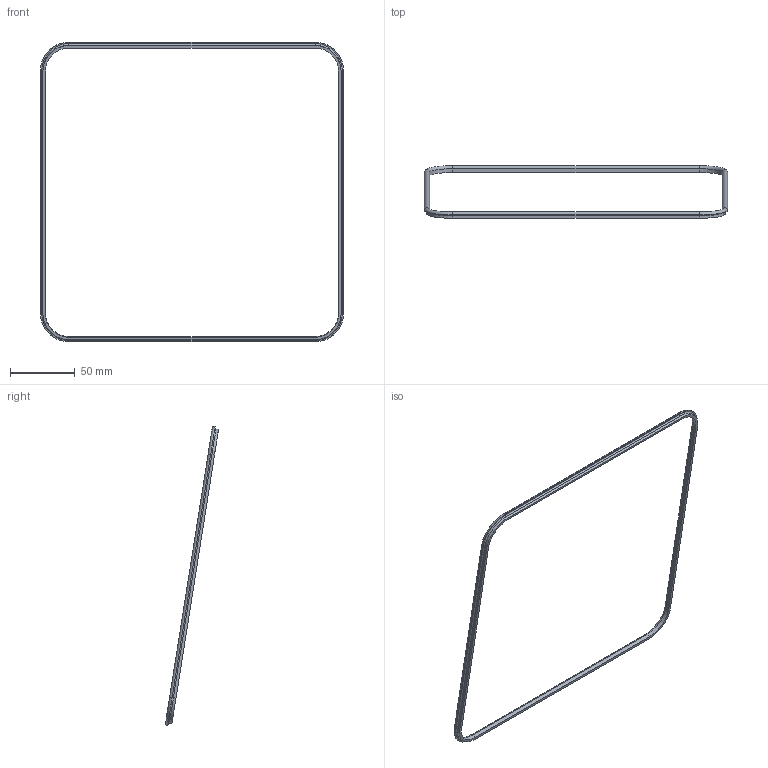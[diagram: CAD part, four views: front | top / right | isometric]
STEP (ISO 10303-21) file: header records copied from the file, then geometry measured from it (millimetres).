
FILE_DESCRIPTION(('STEP AP242 Edition 2','STEP AP242 Edition 2''CAx-IF Rec.Pracs.---Representation and Presentation of Product Manufacturing Information (PMI)---4.0---2014-10-13','STEP AP242 Edition 2''CAx-IF Rec.Pracs.---Representation and Presentation of Product Manufacturing Information (PMI)---4.0---2014-10-13''CAx-IF Rec.Pracs.---3D Tessellated Geometry---0.4---2014-09-14','STEP AP242 Edition 2''CAx-IF Rec.Pracs.---Representation and Presentation of Product Manufacturing Information (PMI)---4.0---2014-10-13''CAx-IF Rec.Pracs.---3D Tessellated Geometry---0.4---2014-09-14''2;1','STEP AP242 Edition 2''CAx-IF Rec.Pracs.---Representation and Presentation of Product Manufacturing Information (PMI)---4.0---2014-10-13''CAx-IF Rec.Pracs.---3D Tessellated Geometry---0.4---2014-09-14''2;1''CAx-IF Rec.Pracs.---User Defined Attributes---1.5---2016-08-15'),'2;1');
FILE_NAME('/vol/tmp/translate-5928582753522486027/Part Studio Body Front - Part Front Right Front Window rubber - Black.step','2026-05-02T13:02:39',(''),(''),'ST-DEVELOPER v20','ONSHAPE BY PTC INC, 1.214',' ');
FILE_SCHEMA(('AP242_MANAGED_MODEL_BASED_3D_ENGINEERING_MIM_LF { 1 0 10303 442 3 1 4 }'));
Length unit declared in the file: metre
Products named in the file (1): Part Front Right Front Window rubber - Black
Bounding box: 234 x 40.94 x 231.14 mm (x, y, z)
Volume: 11031.4 mm3; surface area: 14004 mm2
Topology: 1 solids, 1 shells, 34 faces, 80 edges, 48 vertices
Faces by surface type: cylinder 16, plane 10, torus 8
Entity records: 1002 total; most frequent: DIRECTION 190, CARTESIAN_POINT 163, ORIENTED_EDGE 160, EDGE_CURVE 80, AXIS2_PLACEMENT_3D 75, VERTEX_POINT 48, CIRCLE 40, LINE 40
